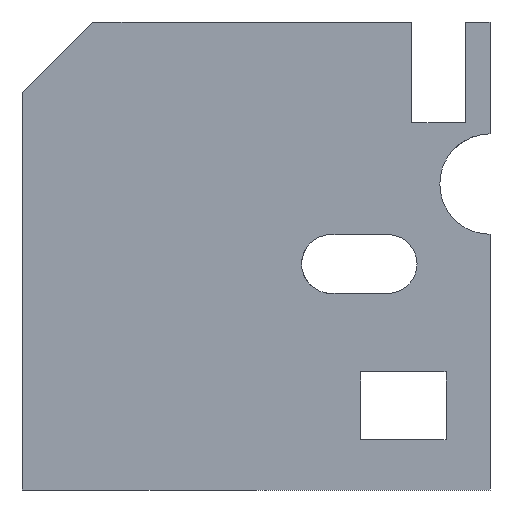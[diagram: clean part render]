
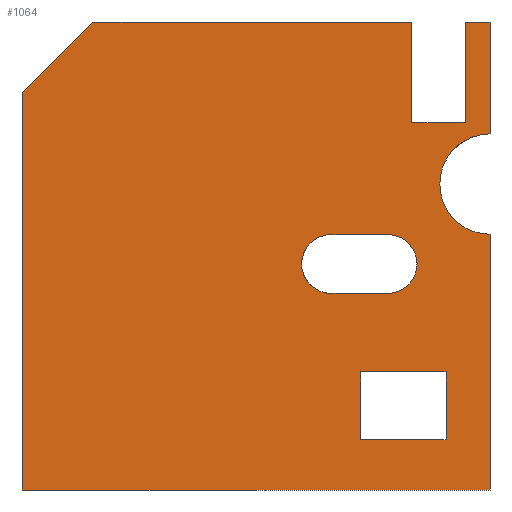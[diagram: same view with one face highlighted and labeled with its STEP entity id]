
A CAD part, left-side view. The second image highlights one B-rep face of the part: STEP entity #1064.
In plain terms, the highlighted planar face has unit normal (-1, 0, 0).
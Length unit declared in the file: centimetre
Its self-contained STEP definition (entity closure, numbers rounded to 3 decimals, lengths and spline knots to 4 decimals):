
#3 = ORIENTED_EDGE ( 'NONE', *, *, #164, .F. ) ;
#8 = CARTESIAN_POINT ( 'NONE',  ( 0., 848.4828, 1000. ) ) ;
#16 = DIRECTION ( 'NONE',  ( 0., -1., 0. ) ) ;
#30 = VECTOR ( 'NONE', #220, 100. ) ;
#35 = ORIENTED_EDGE ( 'NONE', *, *, #1068, .T. ) ;
#44 = DIRECTION ( 'NONE',  ( 0., 0.707, -0.707 ) ) ;
#56 = LINE ( 'NONE', #901, #1332 ) ;
#60 = CARTESIAN_POINT ( 'NONE',  ( 0., 1000., 848.4828 ) ) ;
#72 = LINE ( 'NONE', #712, #443 ) ;
#75 = VERTEX_POINT ( 'NONE', #438 ) ;
#77 = DIRECTION ( 'NONE',  ( 0., -1., 0. ) ) ;
#88 = DIRECTION ( 'NONE',  ( 0., -1., 0. ) ) ;
#111 = LINE ( 'NONE', #1034, #364 ) ;
#119 = ORIENTED_EDGE ( 'NONE', *, *, #1132, .F. ) ;
#124 = VERTEX_POINT ( 'NONE', #881 ) ;
#125 = CARTESIAN_POINT ( 'NONE',  ( 0., 218.6271, 420.1747 ) ) ;
#131 = EDGE_LOOP ( 'NONE', ( #875, #354, #1096, #35, #295, #616, #743, #312, #799, #388, #864 ) ) ;
#135 = CARTESIAN_POINT ( 'NONE',  ( 0., 848.4828, 1000. ) ) ;
#140 = DIRECTION ( 'NONE',  ( 0., 0., -1. ) ) ;
#142 = CARTESIAN_POINT ( 'NONE',  ( 0., 0., 1000. ) ) ;
#154 = EDGE_CURVE ( 'NONE', #1336, #970, #244, .T. ) ;
#157 = AXIS2_PLACEMENT_3D ( 'NONE', #181, #193, #203 ) ;
#164 = EDGE_CURVE ( 'NONE', #168, #75, #1094, .T. ) ;
#168 = VERTEX_POINT ( 'NONE', #1182 ) ;
#181 = CARTESIAN_POINT ( 'NONE',  ( 0., 1000., 1000. ) ) ;
#182 = VERTEX_POINT ( 'NONE', #1341 ) ;
#188 = ORIENTED_EDGE ( 'NONE', *, *, #1257, .F. ) ;
#193 = DIRECTION ( 'NONE',  ( 1., 0., 0. ) ) ;
#197 = VECTOR ( 'NONE', #729, 100. ) ;
#202 = ORIENTED_EDGE ( 'NONE', *, *, #606, .F. ) ;
#203 = DIRECTION ( 'NONE',  ( 0., 0., -1. ) ) ;
#204 = ORIENTED_EDGE ( 'NONE', *, *, #623, .F. ) ;
#209 = PLANE ( 'NONE',  #157 ) ;
#220 = DIRECTION ( 'NONE',  ( 0., 1., 0. ) ) ;
#224 = CARTESIAN_POINT ( 'NONE',  ( 0., 218.6271, 420.1747 ) ) ;
#227 = VERTEX_POINT ( 'NONE', #1138 ) ;
#229 = VERTEX_POINT ( 'NONE', #300 ) ;
#234 = EDGE_CURVE ( 'NONE', #1229, #182, #72, .T. ) ;
#244 = LINE ( 'NONE', #772, #686 ) ;
#263 = VECTOR ( 'NONE', #351, 100. ) ;
#295 = ORIENTED_EDGE ( 'NONE', *, *, #1115, .F. ) ;
#300 = CARTESIAN_POINT ( 'NONE',  ( 0., 218.6271, 545.7767 ) ) ;
#312 = ORIENTED_EDGE ( 'NONE', *, *, #802, .T. ) ;
#319 = CARTESIAN_POINT ( 'NONE',  ( 0., 93.9961, 107.6319 ) ) ;
#328 = VECTOR ( 'NONE', #88, 100. ) ;
#351 = DIRECTION ( 'NONE',  ( 0., 0., -1. ) ) ;
#354 = ORIENTED_EDGE ( 'NONE', *, *, #863, .T. ) ;
#359 = VERTEX_POINT ( 'NONE', #1063 ) ;
#364 = VECTOR ( 'NONE', #16, 100. ) ;
#368 = VECTOR ( 'NONE', #830, 100. ) ;
#388 = ORIENTED_EDGE ( 'NONE', *, *, #789, .T. ) ;
#401 = VECTOR ( 'NONE', #669, 100. ) ;
#406 = LINE ( 'NONE', #1221, #368 ) ;
#438 = CARTESIAN_POINT ( 'NONE',  ( 0., 276.5134, 252.3322 ) ) ;
#443 = VECTOR ( 'NONE', #498, 100. ) ;
#444 = AXIS2_PLACEMENT_3D ( 'NONE', #823, #612, #619 ) ;
#453 = LINE ( 'NONE', #879, #646 ) ;
#455 = CARTESIAN_POINT ( 'NONE',  ( 0., 339.8313, 420.1747 ) ) ;
#473 = VECTOR ( 'NONE', #77, 100. ) ;
#482 = LINE ( 'NONE', #688, #473 ) ;
#498 = DIRECTION ( 'NONE',  ( 0., 0., -1. ) ) ;
#504 = EDGE_CURVE ( 'NONE', #768, #1336, #865, .T. ) ;
#510 = DIRECTION ( 'NONE',  ( -1., 0., 0. ) ) ;
#544 = CARTESIAN_POINT ( 'NONE',  ( 0., 52.9004, 784.4596 ) ) ;
#560 = CARTESIAN_POINT ( 'NONE',  ( 0., 0., 0. ) ) ;
#565 = ORIENTED_EDGE ( 'NONE', *, *, #848, .F. ) ;
#583 = CARTESIAN_POINT ( 'NONE',  ( 0., 52.9004, 1000. ) ) ;
#606 = EDGE_CURVE ( 'NONE', #1260, #229, #870, .T. ) ;
#611 = VERTEX_POINT ( 'NONE', #560 ) ;
#612 = DIRECTION ( 'NONE',  ( 1., 0., 0. ) ) ;
#616 = ORIENTED_EDGE ( 'NONE', *, *, #504, .T. ) ;
#619 = DIRECTION ( 'NONE',  ( 0., 0., -1. ) ) ;
#623 = EDGE_CURVE ( 'NONE', #75, #900, #453, .T. ) ;
#646 = VECTOR ( 'NONE', #1072, 100. ) ;
#664 = AXIS2_PLACEMENT_3D ( 'NONE', #750, #981, #140 ) ;
#668 = DIRECTION ( 'NONE',  ( 0., 0., -1. ) ) ;
#669 = DIRECTION ( 'NONE',  ( 0., 0., -1. ) ) ;
#672 = EDGE_CURVE ( 'NONE', #900, #359, #482, .T. ) ;
#679 = LINE ( 'NONE', #1105, #30 ) ;
#686 = VECTOR ( 'NONE', #668, 100. ) ;
#688 = CARTESIAN_POINT ( 'NONE',  ( 0., 93.9961, 107.6319 ) ) ;
#694 = VERTEX_POINT ( 'NONE', #1137 ) ;
#699 = CARTESIAN_POINT ( 'NONE',  ( 0., 1000., 1000. ) ) ;
#712 = CARTESIAN_POINT ( 'NONE',  ( 0., 0., 1000. ) ) ;
#721 = VERTEX_POINT ( 'NONE', #583 ) ;
#722 = DIRECTION ( 'NONE',  ( 0., -1., 0. ) ) ;
#729 = DIRECTION ( 'NONE',  ( 0., 0., 1. ) ) ;
#743 = ORIENTED_EDGE ( 'NONE', *, *, #154, .T. ) ;
#750 = CARTESIAN_POINT ( 'NONE',  ( 0., 218.6271, 482.9757 ) ) ;
#752 = CARTESIAN_POINT ( 'NONE',  ( 0., 93.9961, 252.3322 ) ) ;
#765 = EDGE_CURVE ( 'NONE', #832, #694, #679, .T. ) ;
#768 = VERTEX_POINT ( 'NONE', #8 ) ;
#772 = CARTESIAN_POINT ( 'NONE',  ( 0., 1000., 1000. ) ) ;
#788 = CARTESIAN_POINT ( 'NONE',  ( 0., 1000., 0. ) ) ;
#789 = EDGE_CURVE ( 'NONE', #227, #182, #1044, .T. ) ;
#799 = ORIENTED_EDGE ( 'NONE', *, *, #1310, .F. ) ;
#802 = EDGE_CURVE ( 'NONE', #970, #611, #111, .T. ) ;
#818 = ORIENTED_EDGE ( 'NONE', *, *, #940, .F. ) ;
#819 = FACE_BOUND ( 'NONE', #966, .T. ) ;
#823 = CARTESIAN_POINT ( 'NONE',  ( 0., 0., 653.6898 ) ) ;
#830 = DIRECTION ( 'NONE',  ( 0., 0., 1. ) ) ;
#832 = VERTEX_POINT ( 'NONE', #833 ) ;
#833 = CARTESIAN_POINT ( 'NONE',  ( 0., 52.9004, 784.4596 ) ) ;
#841 = CARTESIAN_POINT ( 'NONE',  ( 0., 339.8313, 545.7767 ) ) ;
#848 = EDGE_CURVE ( 'NONE', #1209, #1281, #1092, .T. ) ;
#849 = VECTOR ( 'NONE', #44, 100. ) ;
#863 = EDGE_CURVE ( 'NONE', #721, #832, #1243, .T. ) ;
#864 = ORIENTED_EDGE ( 'NONE', *, *, #234, .F. ) ;
#865 = LINE ( 'NONE', #135, #849 ) ;
#870 = CIRCLE ( 'NONE', #664, 62.801 ) ;
#875 = ORIENTED_EDGE ( 'NONE', *, *, #1027, .F. ) ;
#879 = CARTESIAN_POINT ( 'NONE',  ( 0., 276.5134, 107.6319 ) ) ;
#881 = CARTESIAN_POINT ( 'NONE',  ( 0., 166.8718, 1000. ) ) ;
#900 = VERTEX_POINT ( 'NONE', #1028 ) ;
#901 = CARTESIAN_POINT ( 'NONE',  ( 0., 339.8313, 545.7767 ) ) ;
#925 = LINE ( 'NONE', #125, #1288 ) ;
#931 = FACE_BOUND ( 'NONE', #1109, .T. ) ;
#940 = EDGE_CURVE ( 'NONE', #229, #1209, #56, .T. ) ;
#966 = EDGE_LOOP ( 'NONE', ( #188, #985, #204, #3 ) ) ;
#969 = DIRECTION ( 'NONE',  ( 0., -1., 0. ) ) ;
#970 = VERTEX_POINT ( 'NONE', #788 ) ;
#981 = DIRECTION ( 'NONE',  ( -1., 0., 0. ) ) ;
#985 = ORIENTED_EDGE ( 'NONE', *, *, #672, .F. ) ;
#992 = DIRECTION ( 'NONE',  ( 0., 1., 0. ) ) ;
#1027 = EDGE_CURVE ( 'NONE', #721, #1229, #1235, .T. ) ;
#1028 = CARTESIAN_POINT ( 'NONE',  ( 0., 276.5134, 107.6319 ) ) ;
#1034 = CARTESIAN_POINT ( 'NONE',  ( 0., 1000., 0. ) ) ;
#1044 = CIRCLE ( 'NONE', #444, 107.2239 ) ;
#1063 = CARTESIAN_POINT ( 'NONE',  ( 0., 93.9961, 107.6319 ) ) ;
#1064 = ADVANCED_FACE ( 'NONE', ( #931, #819, #1149 ), #209, .F. ) ;
#1068 = EDGE_CURVE ( 'NONE', #694, #124, #406, .T. ) ;
#1071 = AXIS2_PLACEMENT_3D ( 'NONE', #1077, #510, #1345 ) ;
#1072 = DIRECTION ( 'NONE',  ( 0., 0., -1. ) ) ;
#1077 = CARTESIAN_POINT ( 'NONE',  ( 0., 339.8313, 482.9757 ) ) ;
#1092 = CIRCLE ( 'NONE', #1071, 62.801 ) ;
#1094 = LINE ( 'NONE', #752, #1283 ) ;
#1096 = ORIENTED_EDGE ( 'NONE', *, *, #765, .T. ) ;
#1101 = LINE ( 'NONE', #142, #401 ) ;
#1105 = CARTESIAN_POINT ( 'NONE',  ( 0., 52.9004, 784.4596 ) ) ;
#1109 = EDGE_LOOP ( 'NONE', ( #818, #202, #119, #565 ) ) ;
#1115 = EDGE_CURVE ( 'NONE', #768, #124, #1125, .T. ) ;
#1125 = LINE ( 'NONE', #1230, #328 ) ;
#1132 = EDGE_CURVE ( 'NONE', #1281, #1260, #925, .T. ) ;
#1137 = CARTESIAN_POINT ( 'NONE',  ( 0., 166.8718, 784.4596 ) ) ;
#1138 = CARTESIAN_POINT ( 'NONE',  ( 0., 0., 546.4658 ) ) ;
#1149 = FACE_OUTER_BOUND ( 'NONE', #131, .T. ) ;
#1171 = LINE ( 'NONE', #319, #197 ) ;
#1182 = CARTESIAN_POINT ( 'NONE',  ( 0., 93.9961, 252.3322 ) ) ;
#1183 = CARTESIAN_POINT ( 'NONE',  ( 0., 0., 1000. ) ) ;
#1208 = DIRECTION ( 'NONE',  ( 0., 1., 0. ) ) ;
#1209 = VERTEX_POINT ( 'NONE', #841 ) ;
#1221 = CARTESIAN_POINT ( 'NONE',  ( 0., 166.8718, 784.4596 ) ) ;
#1229 = VERTEX_POINT ( 'NONE', #1183 ) ;
#1230 = CARTESIAN_POINT ( 'NONE',  ( 0., 1000., 1000. ) ) ;
#1235 = LINE ( 'NONE', #699, #1335 ) ;
#1243 = LINE ( 'NONE', #544, #263 ) ;
#1257 = EDGE_CURVE ( 'NONE', #359, #168, #1171, .T. ) ;
#1260 = VERTEX_POINT ( 'NONE', #224 ) ;
#1281 = VERTEX_POINT ( 'NONE', #455 ) ;
#1283 = VECTOR ( 'NONE', #1208, 100. ) ;
#1288 = VECTOR ( 'NONE', #969, 100. ) ;
#1310 = EDGE_CURVE ( 'NONE', #227, #611, #1101, .T. ) ;
#1332 = VECTOR ( 'NONE', #992, 100. ) ;
#1335 = VECTOR ( 'NONE', #722, 100. ) ;
#1336 = VERTEX_POINT ( 'NONE', #60 ) ;
#1341 = CARTESIAN_POINT ( 'NONE',  ( 0., 0., 760.9137 ) ) ;
#1345 = DIRECTION ( 'NONE',  ( 0., 0., -1. ) ) ;
